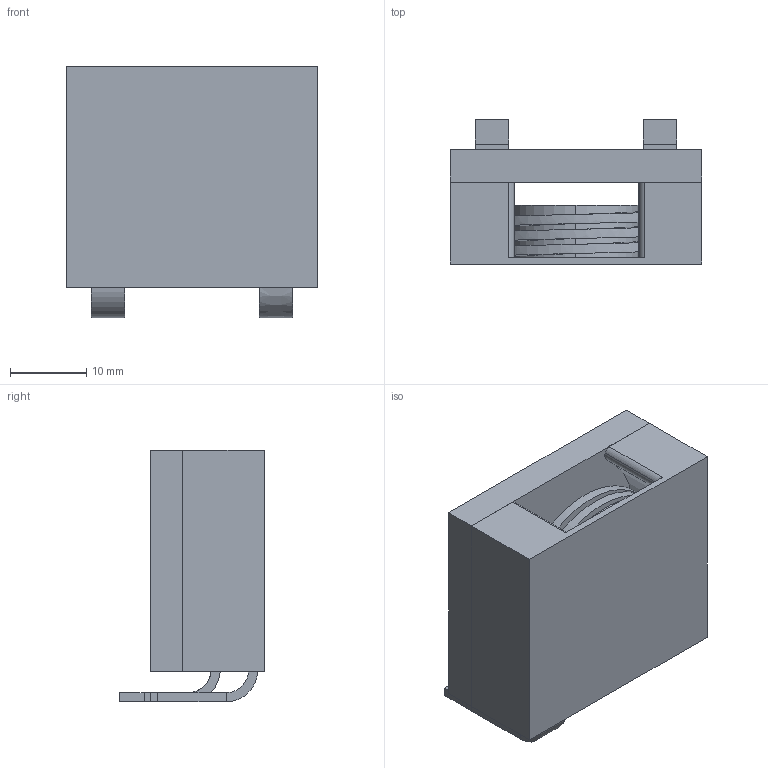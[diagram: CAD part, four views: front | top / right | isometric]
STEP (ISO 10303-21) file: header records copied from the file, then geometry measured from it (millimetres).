
FILE_DESCRIPTION (( 'STEP AP214' ), '1' );
FILE_NAME ('Core-Coil_Assembly.STEP', '2020-06-26T13:30:01', ( '' ), ( '' ), 'SwSTEP 2.0', 'SolidWorks 2019', '' );
FILE_SCHEMA (( 'AUTOMOTIVE_DESIGN' ));
Length unit declared in the file: inch
Products named in the file (4): Core-Coil_Assembly; Core_ERU33; CoreTop_ERU33; Coil_BR543
Assembly tree (3 placements, depth 2):
  Core-Coil_Assembly
    Core_ERU33
    Coil_BR543
    CoreTop_ERU33
Bounding box: 33 x 19 x 33.01 mm (x, y, z)
Volume: 10015.1 mm3; surface area: 8870.2 mm2
Topology: 3 solids, 3 shells, 88 faces, 193 edges, 120 vertices
Faces by surface type: plane 60, bspline 14, cylinder 10, cone 4
Entity records: 5188 total; most frequent: CARTESIAN_POINT 2794, ORIENTED_EDGE 386, DIRECTION 354, EDGE_CURVE 193, VECTOR 142, LINE 142, VERTEX_POINT 120, AXIS2_PLACEMENT_3D 106
